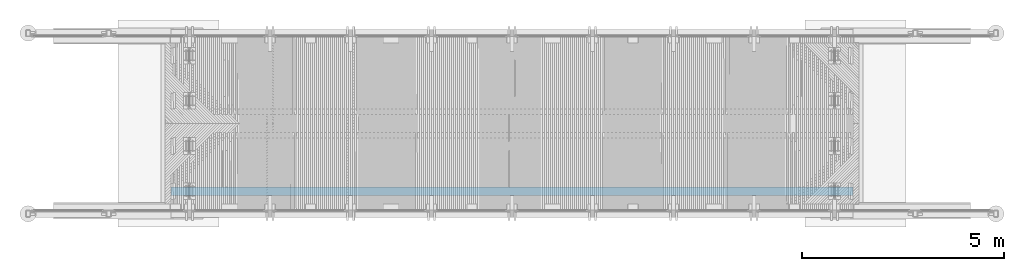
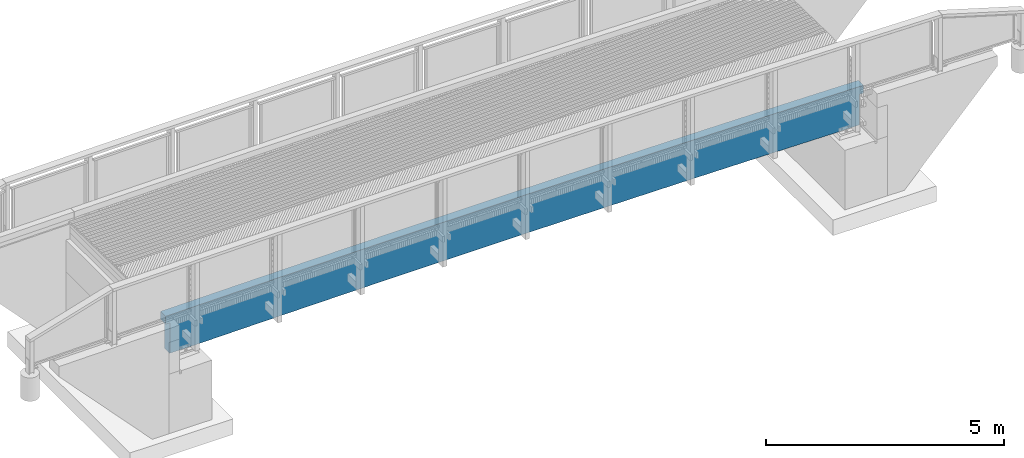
# One storey, part 29 of 65: 1 beam.
"""IFC2X3 building model written with IfcOpenShell, lengths in millimetres."""

from ifc_helpers import new_model, si_unit, frame, origin_with_axes, place, context, subcontext, project, spatial, faceted_brep, material, type_object, element, save


model = new_model("IFC2X3")

# Units and contexts
model_context = context("Model", 3, precision=1e-05, world=origin_with_axes())
body_context = subcontext(model_context, "Body", "Model", "MODEL_VIEW")
ifc_project = project(units=[si_unit("LENGTHUNIT", "METRE", prefix="MILLI"), si_unit("AREAUNIT", "SQUARE_METRE"), si_unit("VOLUMEUNIT", "CUBIC_METRE"), si_unit("MASSUNIT", "GRAM", prefix="KILO"), si_unit("TIMEUNIT", "SECOND"), si_unit("PLANEANGLEUNIT", "RADIAN"), si_unit("SOLIDANGLEUNIT", "STERADIAN"), si_unit("THERMODYNAMICTEMPERATUREUNIT", "DEGREE_CELSIUS"), si_unit("LUMINOUSINTENSITYUNIT", "LUMEN")], contexts=[model_context])

# Site, building, storey
site_placement = place(None, origin_with_axes())
site = spatial("IfcSite", under=ifc_project, at=site_placement, Name="Undefined", CompositionType="ELEMENT")
building_placement = place(site_placement, origin_with_axes())
building = spatial("IfcBuilding", under=site, at=building_placement, Name="Undefined", CompositionType="ELEMENT")
storey_placement = place(building_placement, origin_with_axes())
storey = spatial("IfcBuildingStorey", under=building, at=storey_placement, Name="Undefined", CompositionType="ELEMENT", Elevation=0.0)

# Beam
ifc_material = material(Name="TIMBER/Timber_Undefined")
beam_type = type_object("IfcBeamType", Name="990*215", PredefinedType="NOTDEFINED")
beam_placement = place(storey_placement, frame((243.613169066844, 20685.0, 2480.11879463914), z_axis=(0.0, 0.0, 1.0), x_axis=(1.0, 0.0, 0.0)))
element("IfcBeam", 1, at=beam_placement, inside=storey, type_object=beam_type, material=ifc_material, Name="PALKKI", ObjectType="990*215", context=body_context, shape_type="Brep", body=[
    faceted_brep([(16106.3868309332, 107.5, -494.790894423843), (16106.3868309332, -107.5, -494.790894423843), (16080.5342107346, -107.5, -494.790894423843), (15793.4597682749, -107.5, -494.790894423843), (15506.3868309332, -107.5, -494.958794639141), (15506.3868309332, 107.5, -494.958794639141), (15793.4597682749, 107.5, -494.790894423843), (16080.5342107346, 107.5, -494.790894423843), (16106.3868309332, 107.5, 285.209105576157), (16106.3868309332, -107.5, 285.209105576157), (16206.3868309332, 107.5, 285.209105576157), (16206.3868309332, -107.5, 285.209105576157), (16206.3868309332, 107.5, 485.682039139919), (16206.3868309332, -107.5, 485.682039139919), (-627.370013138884, 107.5, 486.625216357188), (-627.370013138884, -107.5, 486.625216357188), (-316.879497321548, -107.5, 490.87213125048), (-316.879497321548, 107.5, 490.87213125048), (-693.613169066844, -107.5, 485.684940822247), (-693.613169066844, -107.5, 285.209105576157), (-624.563039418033, -107.5, 285.209105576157), (-693.613169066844, 107.5, 485.684940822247), (-693.613169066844, 107.5, 285.209105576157), (-624.563039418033, 107.5, 285.209105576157), (-593.613169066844, 107.5, 285.209105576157), (-593.613169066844, -107.5, 285.209105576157), (-593.613169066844, 107.5, -494.790894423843), (-593.613169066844, -107.5, -494.790894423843), (-303.651924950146, -107.5, -494.790894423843), (-6.38683093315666, -107.5, 494.958794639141), (6.38683093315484, -107.5, -494.958794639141), (-6.38683093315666, 107.5, 494.958794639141), (6.38683093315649, 107.5, -494.790894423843), (304.107903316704, 107.5, 498.885205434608), (316.370645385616, 107.5, -491.038844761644), (-303.651924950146, 107.5, -494.790894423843), (316.370645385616, -107.5, -491.038844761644), (304.107903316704, -107.5, 498.885205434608), (614.604622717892, -107.5, 502.651362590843), (614.604622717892, 107.5, 502.651362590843), (626.356441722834, 107.5, -487.278884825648), (626.356441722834, -107.5, -487.278884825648), (936.344137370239, -107.5, -483.678915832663), (925.103244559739, -107.5, 506.257265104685), (925.103244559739, 107.5, 506.257265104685), (936.344137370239, 107.5, -483.678915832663), (1246.33364975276, 107.5, -480.238938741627), (1246.33364975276, -107.5, -480.238938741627), (1235.60368613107, -107.5, 509.702912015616), (1235.60368613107, 107.5, 509.702912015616), (1546.10586472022, 107.5, 512.988302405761), (1556.32489629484, 107.5, -476.958954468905), (1556.32489629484, -107.5, -476.958954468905), (1546.10586472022, -107.5, 512.988302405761), (1856.60969761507, -107.5, 516.113435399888), (1856.60969761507, 107.5, 516.113435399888), (1866.31779442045, 107.5, -473.838963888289), (1866.31779442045, -107.5, -473.838963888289), (2176.31226155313, -107.5, -470.878967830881), (2167.11510210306, -107.5, 519.078310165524), (2167.11510210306, 107.5, 519.078310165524), (2176.31226155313, 107.5, -470.878967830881), (2486.30821511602, 107.5, -468.078967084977), (2486.30821511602, -107.5, -468.078967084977), (2477.6219954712, -107.5, 521.882925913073), (2477.6219954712, 107.5, 521.882925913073), (2788.13029500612, 107.5, 524.527281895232), (2796.30557253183, 107.5, -465.438962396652), (2796.30557253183, -107.5, -465.438962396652), (2788.13029500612, -107.5, 524.527281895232), (3098.63991799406, -107.5, 527.011377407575), (3098.63991799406, 107.5, 527.011377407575), (3106.30425122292, 107.5, -462.958954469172), (3106.30425122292, -107.5, -462.958954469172), (3416.30416861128, -107.5, -460.638943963), (3409.15078172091, -107.5, 529.335211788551), (3409.15078172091, 107.5, 529.335211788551), (3416.30416861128, 107.5, -460.638943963), (3726.30524211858, 107.5, -458.478931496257), (3726.30524211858, -107.5, -458.478931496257), (3719.66280347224, -107.5, 531.49878441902), (3719.66280347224, 107.5, 531.49878441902), (4030.1759005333, 107.5, 533.502094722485), (4036.3073891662, 107.5, -456.478917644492), (4036.3073891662, -107.5, -456.478917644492), (4030.1759005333, -107.5, 533.502094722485), (4340.68999018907, -107.5, 535.345142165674), (4340.68999018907, 107.5, 535.345142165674), (4346.3105271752, 107.5, -454.638902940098), (4346.3105271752, -107.5, -454.638902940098), (4656.31457356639, -107.5, -452.958887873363), (4651.20498972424, -107.5, 537.027926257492), (4651.20498972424, 107.5, 537.027926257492), (4656.31457356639, 107.5, -452.958887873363), (4966.31944576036, 107.5, -451.438872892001), (4966.31944576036, -107.5, -451.438872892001), (4961.72081642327, -107.5, 538.550446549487), (4961.72081642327, 107.5, 538.550446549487), (5272.23738757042, 107.5, 539.912702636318), (5276.32506117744, 107.5, -450.078858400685), (5276.32506117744, -107.5, -450.078858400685), (5272.23738757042, -107.5, 539.912702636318), (5582.75462044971, -107.5, 541.114694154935), (5582.75462044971, 107.5, 541.114694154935), (5586.33133723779, 107.5, -448.878844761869), (5586.33133723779, -107.5, -448.878844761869), (5896.33819136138, -107.5, -447.838832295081), (5893.27243234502, -107.5, 542.156420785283), (5893.27243234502, 107.5, 542.156420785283), (5896.33819136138, 107.5, -447.838832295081), (6206.34554096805, 107.5, -446.958821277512), (6206.34554096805, -107.5, -446.958821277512), (6203.79074054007, -107.5, 543.037882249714), (6203.79074054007, 107.5, 543.037882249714), (6514.30946231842, 107.5, 543.759078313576), (6516.35330347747, 107.5, -446.238811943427), (6516.35330347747, -107.5, -446.238811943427), (6514.30946231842, -107.5, 543.759078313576), (6824.82851496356, -107.5, 544.320008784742), (6824.82851496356, 107.5, 544.320008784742), (6826.36139630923, 107.5, -445.678804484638), (6826.36139630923, -107.5, -445.678804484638), (7136.36973688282, -107.5, -445.278799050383), (7135.34781575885, -107.5, 544.720673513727), (7135.34781575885, 107.5, 544.720673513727), (7136.36973688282, 107.5, -445.278799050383), (7446.37824261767, 107.5, -445.038795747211), (7446.37824261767, -107.5, -445.038795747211), (7445.86728198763, -107.5, 544.961072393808), (7445.86728198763, 107.5, 544.961072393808), (7756.38683093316, 107.5, 545.041205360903), (7756.38683093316, 107.5, -444.958794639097), (7756.38683093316, -107.5, -444.958794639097), (7756.38683093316, -107.5, 545.041205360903), (8066.90637987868, -107.5, 544.961072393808), (8066.90637987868, 107.5, 544.961072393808), (8066.39541924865, 107.5, -445.038795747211), (8066.39541924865, -107.5, -445.038795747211), (8376.40392498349, -107.5, -445.278799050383), (8377.42584610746, -107.5, 544.720673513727), (8377.42584610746, 107.5, 544.720673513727), (8376.40392498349, 107.5, -445.278799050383), (8686.41226555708, 107.5, -445.678804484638), (8686.41226555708, -107.5, -445.678804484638), (8687.94514690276, -107.5, 544.320008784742), (8687.94514690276, 107.5, 544.320008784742), (8998.46419954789, 107.5, 543.759078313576), (8996.42035838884, 107.5, -446.238811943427), (8996.42035838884, -107.5, -446.238811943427), (8998.46419954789, -107.5, 543.759078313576), (9308.98292132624, -107.5, 543.037882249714), (9308.98292132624, 107.5, 543.037882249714), (9306.42812089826, 107.5, -446.958821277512), (9306.42812089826, -107.5, -446.958821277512), (9616.43547050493, -107.5, -447.838832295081), (9619.50122952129, -107.5, 542.156420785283), (9619.50122952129, 107.5, 542.156420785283), (9616.43547050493, 107.5, -447.838832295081), (9926.44232462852, 107.5, -448.878844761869), (9926.44232462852, -107.5, -448.878844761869), (9930.0190414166, -107.5, 541.114694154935), (9930.0190414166, 107.5, 541.114694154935), (10240.5362742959, 107.5, 539.912702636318), (10236.4486006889, 107.5, -450.078858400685), (10236.4486006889, -107.5, -450.078858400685), (10240.5362742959, -107.5, 539.912702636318), (10551.052845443, -107.5, 538.550446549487), (10551.052845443, 107.5, 538.550446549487), (10546.454216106, 107.5, -451.438872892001), (10546.454216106, -107.5, -451.438872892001), (10856.4590882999, -107.5, -452.958887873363), (10861.5686721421, -107.5, 537.027926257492), (10861.5686721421, 107.5, 537.027926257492), (10856.4590882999, 107.5, -452.958887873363), (11166.4631346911, 107.5, -454.638902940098), (11166.4631346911, -107.5, -454.638902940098), (11172.0836716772, -107.5, 535.345142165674), (11172.0836716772, 107.5, 535.345142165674), (11482.597761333, 107.5, 533.502094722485), (11476.4662727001, 107.5, -456.478917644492), (11476.4662727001, -107.5, -456.478917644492), (11482.597761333, -107.5, 533.502094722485), (11793.1108583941, -107.5, 531.49878441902), (11793.1108583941, 107.5, 531.49878441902), (11786.4684197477, 107.5, -458.478931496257), (11786.4684197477, -107.5, -458.478931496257), (12096.469493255, -107.5, -460.638943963), (12103.6228801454, -107.5, 529.335211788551), (12103.6228801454, 107.5, 529.335211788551), (12096.469493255, 107.5, -460.638943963), (12406.4694106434, 107.5, -462.958954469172), (12406.4694106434, -107.5, -462.958954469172), (12414.1337438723, -107.5, 527.011377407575), (12414.1337438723, 107.5, 527.011377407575), (12724.6433668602, 107.5, 524.527281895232), (12716.4680893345, 107.5, -465.438962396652), (12716.4680893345, -107.5, -465.438962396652), (12724.6433668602, -107.5, 524.527281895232), (13035.1516663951, -107.5, 521.882925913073), (13035.1516663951, 107.5, 521.882925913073), (13026.4654467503, 107.5, -468.078967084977), (13026.4654467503, -107.5, -468.078967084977), (13336.4614003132, -107.5, -470.878967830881), (13345.6585597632, -107.5, 519.078310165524), (13345.6585597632, 107.5, 519.078310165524), (13336.4614003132, 107.5, -470.878967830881), (13646.4558674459, 107.5, -473.838963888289), (13646.4558674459, -107.5, -473.838963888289), (13656.1639642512, -107.5, 516.113435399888), (13656.1639642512, 107.5, 516.113435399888), (13966.6677971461, 107.5, 512.988302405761), (13956.4487655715, 107.5, -476.958954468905), (13956.4487655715, -107.5, -476.958954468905), (13966.6677971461, -107.5, 512.988302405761), (14277.1699757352, -107.5, 509.702912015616), (14277.1699757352, 107.5, 509.702912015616), (14266.4400121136, 107.5, -480.238938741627), (14266.4400121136, -107.5, -480.238938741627), (14576.4295244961, -107.5, -483.678915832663), (14587.6704173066, -107.5, 506.257265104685), (14587.6704173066, 107.5, 506.257265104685), (14576.4295244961, 107.5, -483.678915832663), (14886.4172201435, 107.5, -487.278884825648), (14886.4172201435, -107.5, -487.278884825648), (14898.1690391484, -107.5, 502.651362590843), (14898.1690391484, 107.5, 502.651362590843), (15208.6657585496, 107.5, 498.885205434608), (15196.4030164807, 107.5, -491.038844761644), (15196.4030164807, -107.5, -491.038844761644), (15208.6657585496, -107.5, 498.885205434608), (15519.1604927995, -107.5, 494.958794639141), (15519.1604927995, 107.5, 494.958794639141), (15806.6537751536, -107.5, 491.180342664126), (15806.6537751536, 107.5, 491.180342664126), (16094.1452189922, -107.5, 487.264500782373), (16094.1452189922, 107.5, 487.264500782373)], [[[0, 1, 2, 3, 4, 5, 6, 7]], [[8, 9, 1, 0]], [[10, 11, 9, 8]], [[12, 13, 11, 10]], [[14, 15, 16, 17]], [[15, 18, 19, 20]], [[21, 22, 19, 18]], [[15, 14, 21, 18]], [[21, 14, 23, 22]], [[24, 25, 20, 19, 22, 23]], [[26, 27, 25, 24]], [[16, 15, 20, 25, 27, 28]], [[29, 16, 28, 30]], [[17, 16, 29, 31]], [[32, 31, 33, 34]], [[17, 31, 32, 35]], [[24, 23, 14, 17, 35, 26]], [[32, 30, 28, 27, 26, 35]], [[34, 36, 30, 32]], [[29, 30, 36, 37]], [[31, 29, 37, 33]], [[33, 37, 38, 39]], [[34, 33, 39, 40]], [[36, 34, 40, 41]], [[37, 36, 41, 38]], [[38, 41, 42, 43]], [[39, 38, 43, 44]], [[40, 39, 44, 45]], [[41, 40, 45, 42]], [[42, 45, 46, 47]], [[43, 42, 47, 48]], [[44, 43, 48, 49]], [[45, 44, 49, 46]], [[46, 49, 50, 51]], [[47, 46, 51, 52]], [[48, 47, 52, 53]], [[49, 48, 53, 50]], [[50, 53, 54, 55]], [[51, 50, 55, 56]], [[52, 51, 56, 57]], [[53, 52, 57, 54]], [[54, 57, 58, 59]], [[55, 54, 59, 60]], [[56, 55, 60, 61]], [[57, 56, 61, 58]], [[58, 61, 62, 63]], [[59, 58, 63, 64]], [[60, 59, 64, 65]], [[61, 60, 65, 62]], [[62, 65, 66, 67]], [[63, 62, 67, 68]], [[64, 63, 68, 69]], [[65, 64, 69, 66]], [[66, 69, 70, 71]], [[67, 66, 71, 72]], [[68, 67, 72, 73]], [[69, 68, 73, 70]], [[70, 73, 74, 75]], [[71, 70, 75, 76]], [[72, 71, 76, 77]], [[73, 72, 77, 74]], [[74, 77, 78, 79]], [[75, 74, 79, 80]], [[76, 75, 80, 81]], [[77, 76, 81, 78]], [[78, 81, 82, 83]], [[79, 78, 83, 84]], [[80, 79, 84, 85]], [[81, 80, 85, 82]], [[82, 85, 86, 87]], [[83, 82, 87, 88]], [[84, 83, 88, 89]], [[85, 84, 89, 86]], [[86, 89, 90, 91]], [[87, 86, 91, 92]], [[88, 87, 92, 93]], [[89, 88, 93, 90]], [[90, 93, 94, 95]], [[91, 90, 95, 96]], [[92, 91, 96, 97]], [[93, 92, 97, 94]], [[94, 97, 98, 99]], [[95, 94, 99, 100]], [[96, 95, 100, 101]], [[97, 96, 101, 98]], [[98, 101, 102, 103]], [[99, 98, 103, 104]], [[100, 99, 104, 105]], [[101, 100, 105, 102]], [[102, 105, 106, 107]], [[103, 102, 107, 108]], [[104, 103, 108, 109]], [[105, 104, 109, 106]], [[106, 109, 110, 111]], [[107, 106, 111, 112]], [[108, 107, 112, 113]], [[109, 108, 113, 110]], [[110, 113, 114, 115]], [[111, 110, 115, 116]], [[112, 111, 116, 117]], [[113, 112, 117, 114]], [[114, 117, 118, 119]], [[115, 114, 119, 120]], [[116, 115, 120, 121]], [[117, 116, 121, 118]], [[118, 121, 122, 123]], [[119, 118, 123, 124]], [[120, 119, 124, 125]], [[121, 120, 125, 122]], [[122, 125, 126, 127]], [[123, 122, 127, 128]], [[124, 123, 128, 129]], [[125, 124, 129, 126]], [[126, 129, 130, 131]], [[127, 126, 131, 132]], [[128, 127, 132, 133]], [[129, 128, 133, 130]], [[130, 133, 134, 135]], [[131, 130, 135, 136]], [[132, 131, 136, 137]], [[133, 132, 137, 134]], [[134, 137, 138, 139]], [[135, 134, 139, 140]], [[136, 135, 140, 141]], [[137, 136, 141, 138]], [[138, 141, 142, 143]], [[139, 138, 143, 144]], [[140, 139, 144, 145]], [[141, 140, 145, 142]], [[142, 145, 146, 147]], [[143, 142, 147, 148]], [[144, 143, 148, 149]], [[145, 144, 149, 146]], [[146, 149, 150, 151]], [[147, 146, 151, 152]], [[148, 147, 152, 153]], [[149, 148, 153, 150]], [[150, 153, 154, 155]], [[151, 150, 155, 156]], [[152, 151, 156, 157]], [[153, 152, 157, 154]], [[154, 157, 158, 159]], [[155, 154, 159, 160]], [[156, 155, 160, 161]], [[157, 156, 161, 158]], [[158, 161, 162, 163]], [[159, 158, 163, 164]], [[160, 159, 164, 165]], [[161, 160, 165, 162]], [[162, 165, 166, 167]], [[163, 162, 167, 168]], [[164, 163, 168, 169]], [[165, 164, 169, 166]], [[166, 169, 170, 171]], [[167, 166, 171, 172]], [[168, 167, 172, 173]], [[169, 168, 173, 170]], [[170, 173, 174, 175]], [[171, 170, 175, 176]], [[172, 171, 176, 177]], [[173, 172, 177, 174]], [[174, 177, 178, 179]], [[175, 174, 179, 180]], [[176, 175, 180, 181]], [[177, 176, 181, 178]], [[178, 181, 182, 183]], [[179, 178, 183, 184]], [[180, 179, 184, 185]], [[181, 180, 185, 182]], [[182, 185, 186, 187]], [[183, 182, 187, 188]], [[184, 183, 188, 189]], [[185, 184, 189, 186]], [[186, 189, 190, 191]], [[187, 186, 191, 192]], [[188, 187, 192, 193]], [[189, 188, 193, 190]], [[190, 193, 194, 195]], [[191, 190, 195, 196]], [[192, 191, 196, 197]], [[193, 192, 197, 194]], [[194, 197, 198, 199]], [[195, 194, 199, 200]], [[196, 195, 200, 201]], [[197, 196, 201, 198]], [[198, 201, 202, 203]], [[199, 198, 203, 204]], [[200, 199, 204, 205]], [[201, 200, 205, 202]], [[202, 205, 206, 207]], [[203, 202, 207, 208]], [[204, 203, 208, 209]], [[205, 204, 209, 206]], [[206, 209, 210, 211]], [[207, 206, 211, 212]], [[208, 207, 212, 213]], [[209, 208, 213, 210]], [[210, 213, 214, 215]], [[211, 210, 215, 216]], [[212, 211, 216, 217]], [[213, 212, 217, 214]], [[214, 217, 218, 219]], [[215, 214, 219, 220]], [[216, 215, 220, 221]], [[217, 216, 221, 218]], [[218, 221, 222, 223]], [[219, 218, 223, 224]], [[220, 219, 224, 225]], [[221, 220, 225, 222]], [[222, 225, 226, 227]], [[223, 222, 227, 228]], [[224, 223, 228, 229]], [[225, 224, 229, 226]], [[226, 229, 230, 231]], [[231, 230, 232, 233]], [[233, 232, 234, 235]], [[8, 0, 7, 235, 12, 10]], [[233, 235, 7, 6]], [[231, 233, 6, 5]], [[227, 226, 231, 5]], [[228, 227, 5, 4]], [[229, 228, 4, 230]], [[232, 230, 4, 3]], [[234, 232, 3, 2]], [[234, 2, 1, 9, 11, 13]], [[235, 234, 13, 12]]]),
])

save(model, "model.ifc")
